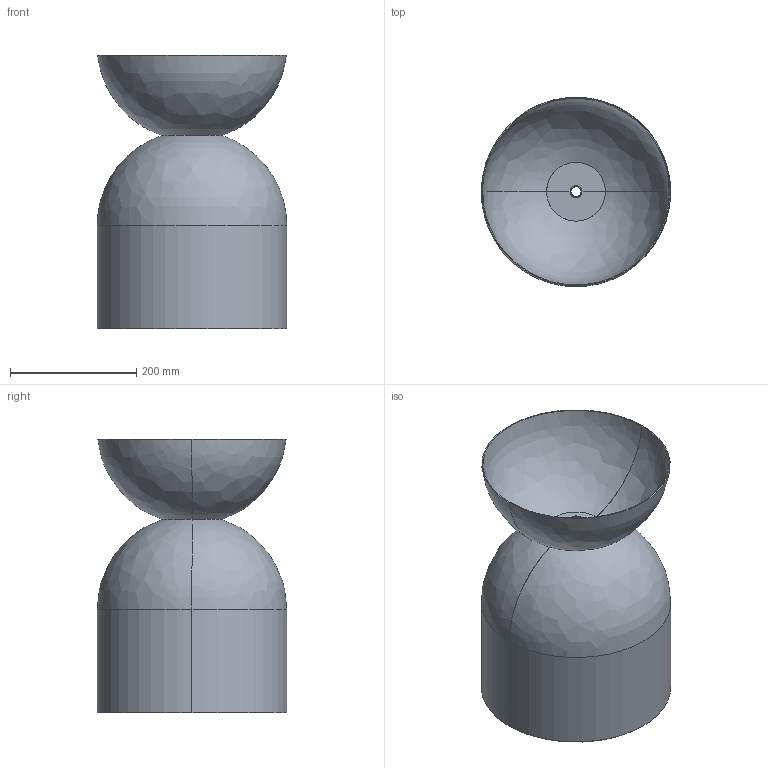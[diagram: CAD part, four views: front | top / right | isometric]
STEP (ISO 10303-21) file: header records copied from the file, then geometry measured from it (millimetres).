
FILE_DESCRIPTION(/* description */ (''),/* implementation_level */ '2;1');
FILE_NAME(/* name */ 'HW4R6D~A',/* time_stamp */ '2019-03-20T15:43:51+01:00',/* author */ (''),/* organization */ (''),/* preprocessor_version */ 'ST-DEVELOPER v16.5',/* originating_system */ '',/* authorisation */ '');
FILE_SCHEMA (('AUTOMOTIVE_DESIGN'));
Length unit declared in the file: millimetre
Products named in the file (1): Document
Bounding box: 300 x 299.96 x 433.06 mm (x, y, z)
Volume: 490234.8 mm3; surface area: 834692.4 mm2
Topology: 1 solids, 1 shells, 28 faces, 56 edges, 28 vertices
Faces by surface type: bspline 28
Entity records: 903 total; most frequent: CARTESIAN_POINT 578, ORIENTED_EDGE 112, EDGE_CURVE 56, ADVANCED_FACE 28, FACE_OUTER_BOUND 28, EDGE_LOOP 28, VERTEX_POINT 28, B_SPLINE_CURVE_WITH_KNOTS 20
